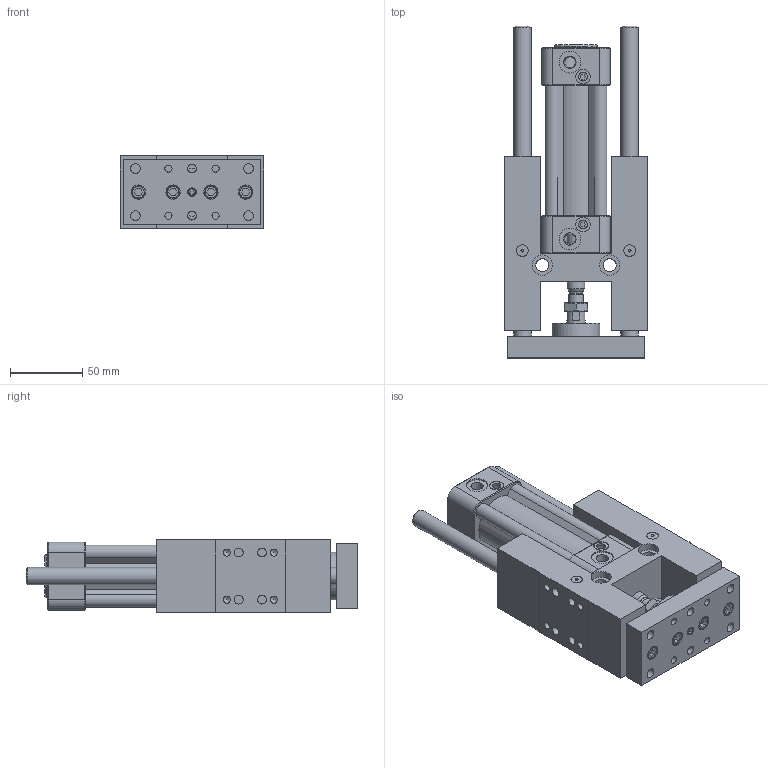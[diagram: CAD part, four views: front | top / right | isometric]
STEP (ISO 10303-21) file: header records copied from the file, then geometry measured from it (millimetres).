
FILE_DESCRIPTION((''),'2;1');
FILE_NAME('I:\3D電子目錄\氣缸\GHB(U)\GHB(U)\GHB(U)32\GHB(U)32x50.stp','2007-10-19T10:28:49',('Administrator'),(''),'Autodesk Inventor 11','Autodesk Inventor 11','');
FILE_SCHEMA(('AUTOMOTIVE_DESIGN { 1 0 10303 214 1 1 1 1 }'));
Length unit declared in the file: millimetre
Products named in the file (1): GHB(U)32
Bounding box: 99 x 229 x 50.2 mm (x, y, z)
Volume: 597956.2 mm3; surface area: 150038.6 mm2
Topology: 17 solids, 17 shells, 738 faces, 1598 edges, 986 vertices
Faces by surface type: plane 291, bspline 199, cylinder 159, cone 80, torus 9
Full cylindrical faces by diameter (mm): 2.6 x2, 4.9 x2, 4.917 x4, 5 x5, 5.5 x10, 6 x11, 6.5 x8, 7.5 x1, 7.8 x4, 7.9 x3, 8 x5, 9 x8, 10 x7, 10.2 x8, 12 x4, 13 x1, 14 x1, 15 x2, 17 x2, 30 x1, 32 x1, 33 x1
Entity records: 20771 total; most frequent: CARTESIAN_POINT 6160, DIRECTION 2934, ORIENTED_EDGE 2754, EDGE_CURVE 1377, AXIS2_PLACEMENT_3D 1157, EDGE_LOOP 1056, VERTEX_POINT 953, FACE_OUTER_BOUND 738
